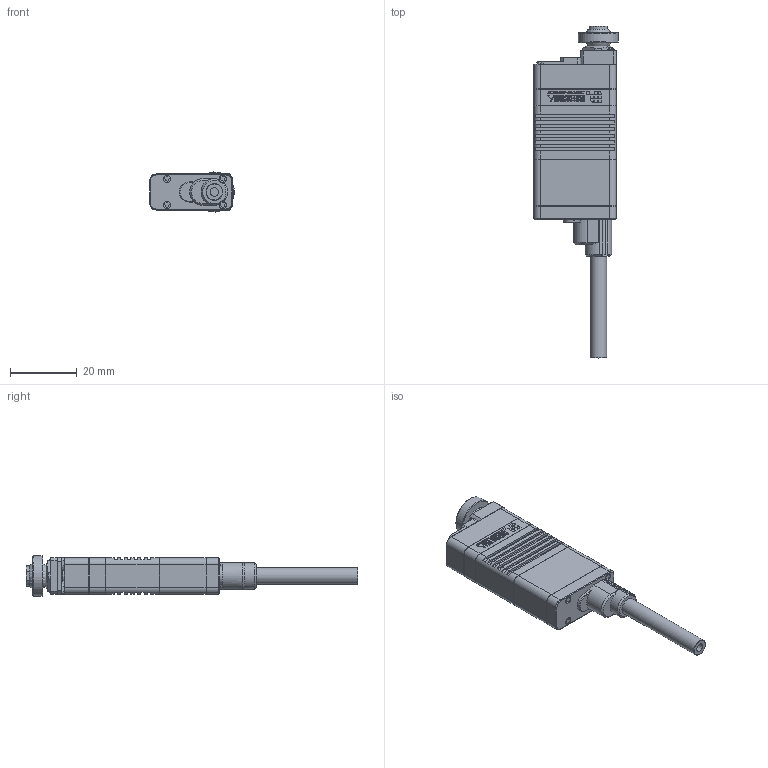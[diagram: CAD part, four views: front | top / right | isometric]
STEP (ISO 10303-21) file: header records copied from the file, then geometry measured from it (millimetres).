
FILE_DESCRIPTION (( 'STEP AP203' ), '1' );
FILE_NAME ('LASF30-0x4D-1201.STEP', '2023-12-01T09:57:24', ( '' ), ( '' ), '' );
FILE_SCHEMA (( 'CONFIG_CONTROL_DESIGN' ));
Length unit declared in the file: millimetre
Products named in the file (4): 30芢裝; LASF30-0x4D-GE4C^LASF30-0x4D-GE4C; LASF30-0x4D-1201; NSK-GE4C外圈
Assembly tree (3 placements, depth 2):
  LASF30-0x4D-1201
    LASF30-0x4D-GE4C^LASF30-0x4D-GE4C
    30芢裝
    NSK-GE4C外圈
Bounding box: 25.4 x 99.5 x 11.99 mm (x, y, z)
Volume: 13975.8 mm3; surface area: 6853.7 mm2
Topology: 3 solids, 6 shells, 1412 faces, 3723 edges, 2440 vertices
Faces by surface type: plane 846, bspline 416, cylinder 79, cone 57, torus 12, sphere 2
Full cylindrical faces by diameter (mm): 2 x2, 2.05 x1, 2.17 x6, 2.2 x4, 2.4 x3, 2.5 x2, 2.6 x2, 3.3 x1, 4 x2, 5 x2, 12 x1
Entity records: 45544 total; most frequent: CARTESIAN_POINT 13200, ORIENTED_EDGE 7324, DIRECTION 5090, EDGE_CURVE 3662, VECTOR 2502, LINE 2502, VERTEX_POINT 2420, EDGE_LOOP 1578
